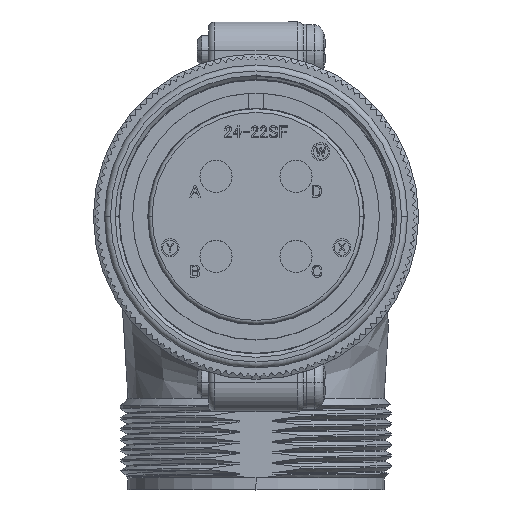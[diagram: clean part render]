
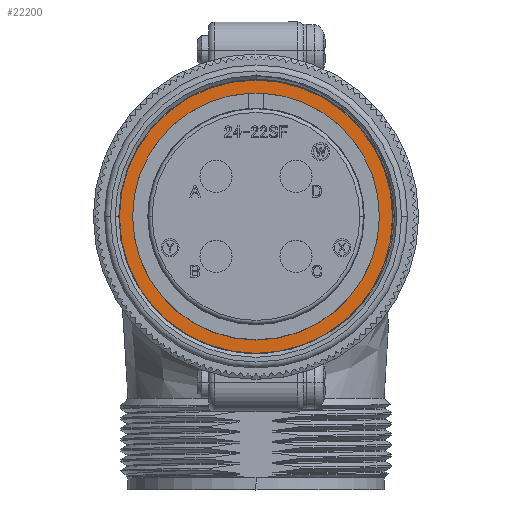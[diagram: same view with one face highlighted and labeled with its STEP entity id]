
A CAD part, top view. The second image highlights one B-rep face of the part: STEP entity #22200.
In plain terms, the highlighted planar face has unit normal (0, 0, 1).
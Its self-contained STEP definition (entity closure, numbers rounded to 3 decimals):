
#1406 = DIRECTION ( 'NONE',  ( 0., 0., 1. ) ) ;
#2202 = EDGE_CURVE ( 'NONE', #41122, #78242, #76658, .T. ) ;
#4370 = DIRECTION ( 'NONE',  ( 1., 0., 0. ) ) ;
#4721 = CARTESIAN_POINT ( 'NONE',  ( 0., 0., -18.25 ) ) ;
#5179 = CIRCLE ( 'NONE', #95872, 18.3 ) ;
#12621 = DIRECTION ( 'NONE',  ( 0., 0., 1. ) ) ;
#13314 = DIRECTION ( 'NONE',  ( 1., 0., 0. ) ) ;
#14706 = AXIS2_PLACEMENT_3D ( 'NONE', #97970, #55415, #4370 ) ;
#18408 = AXIS2_PLACEMENT_3D ( 'NONE', #63709, #12621, #72292 ) ;
#20143 = EDGE_CURVE ( 'NONE', #89991, #48496, #65190, .T. ) ;
#22200 = ADVANCED_FACE ( 'NONE', ( #75456, #55399 ), #29691, .T. ) ;
#23866 = AXIS2_PLACEMENT_3D ( 'NONE', #43077, #102739, #51625 ) ;
#28952 = CARTESIAN_POINT ( 'NONE',  ( -16.525, 0., -18.25 ) ) ;
#29691 = PLANE ( 'NONE',  #14706 ) ;
#39718 = ORIENTED_EDGE ( 'NONE', *, *, #83768, .T. ) ;
#41122 = VERTEX_POINT ( 'NONE', #101887 ) ;
#43077 = CARTESIAN_POINT ( 'NONE',  ( 0., 0., -18.25 ) ) ;
#45804 = AXIS2_PLACEMENT_3D ( 'NONE', #4721, #64382, #13314 ) ;
#47706 = ORIENTED_EDGE ( 'NONE', *, *, #2202, .F. ) ;
#48496 = VERTEX_POINT ( 'NONE', #69075 ) ;
#51625 = DIRECTION ( 'NONE',  ( 1., 0., 0. ) ) ;
#52441 = CARTESIAN_POINT ( 'NONE',  ( 0., 0., -18.25 ) ) ;
#55399 = FACE_OUTER_BOUND ( 'NONE', #93277, .T. ) ;
#55415 = DIRECTION ( 'NONE',  ( 0., 0., 1. ) ) ;
#60418 = CARTESIAN_POINT ( 'NONE',  ( -18.3, 0., -18.25 ) ) ;
#61081 = DIRECTION ( 'NONE',  ( 1., 0., 0. ) ) ;
#62227 = ORIENTED_EDGE ( 'NONE', *, *, #80820, .F. ) ;
#63709 = CARTESIAN_POINT ( 'NONE',  ( 0., 0., -18.25 ) ) ;
#64382 = DIRECTION ( 'NONE',  ( 0., 0., 1. ) ) ;
#65190 = CIRCLE ( 'NONE', #23866, 18.3 ) ;
#69075 = CARTESIAN_POINT ( 'NONE',  ( 18.3, 0., -18.25 ) ) ;
#72292 = DIRECTION ( 'NONE',  ( 1., 0., 0. ) ) ;
#75456 = FACE_BOUND ( 'NONE', #104270, .T. ) ;
#76658 = CIRCLE ( 'NONE', #18408, 16.525 ) ;
#78242 = VERTEX_POINT ( 'NONE', #28952 ) ;
#80319 = CIRCLE ( 'NONE', #45804, 16.525 ) ;
#80820 = EDGE_CURVE ( 'NONE', #78242, #41122, #80319, .T. ) ;
#83768 = EDGE_CURVE ( 'NONE', #48496, #89991, #5179, .T. ) ;
#89991 = VERTEX_POINT ( 'NONE', #60418 ) ;
#93277 = EDGE_LOOP ( 'NONE', ( #39718, #93597 ) ) ;
#93597 = ORIENTED_EDGE ( 'NONE', *, *, #20143, .T. ) ;
#95872 = AXIS2_PLACEMENT_3D ( 'NONE', #52441, #1406, #61081 ) ;
#97970 = CARTESIAN_POINT ( 'NONE',  ( 0., 0., -18.25 ) ) ;
#101887 = CARTESIAN_POINT ( 'NONE',  ( 16.525, 0., -18.25 ) ) ;
#102739 = DIRECTION ( 'NONE',  ( 0., 0., 1. ) ) ;
#104270 = EDGE_LOOP ( 'NONE', ( #47706, #62227 ) ) ;
